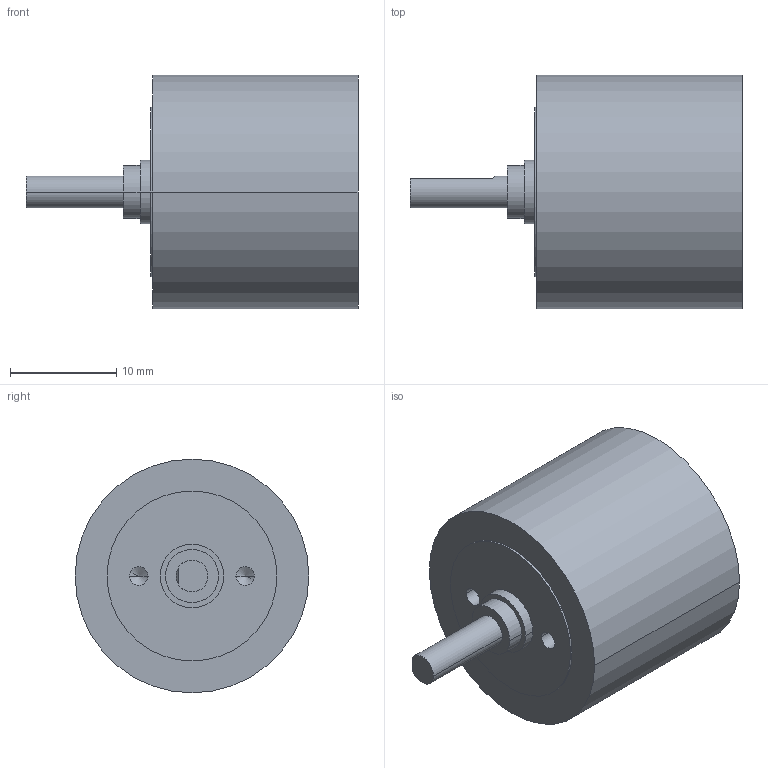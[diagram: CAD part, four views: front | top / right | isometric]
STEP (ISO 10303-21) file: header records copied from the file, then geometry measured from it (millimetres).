
FILE_DESCRIPTION((''),'2;1');
FILE_NAME('1682158','2016-10-04T',('mmagvisi'),(''),'CREO PARAMETRIC BY PTC INC, 2016050','CREO PARAMETRIC BY PTC INC, 2016050','');
FILE_SCHEMA(('CONFIG_CONTROL_DESIGN'));
Length unit declared in the file: millimetre
Products named in the file (1): 1682158
Bounding box: 31.25 x 22 x 22 mm (x, y, z)
Volume: 6670.6 mm3; surface area: 2452.8 mm2
Topology: 1 solids, 1 shells, 32 faces, 68 edges, 42 vertices
Faces by surface type: cylinder 18, plane 10, cone 4
Entity records: 953 total; most frequent: DIRECTION 162, CARTESIAN_POINT 143, ORIENTED_EDGE 128, AXIS2_PLACEMENT_3D 68, EDGE_CURVE 64, COLOUR_RGB 58, VERTEX_POINT 42, EDGE_LOOP 40
